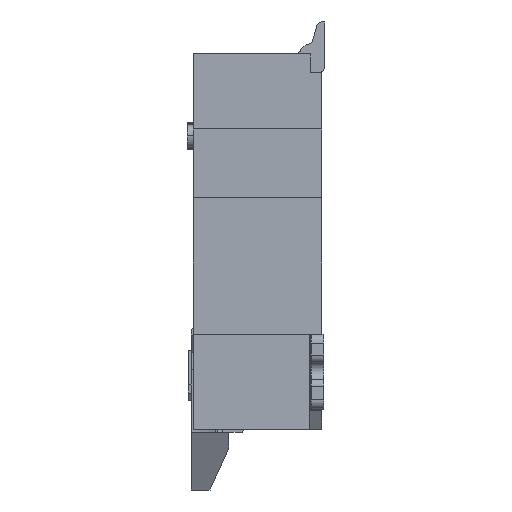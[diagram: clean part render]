
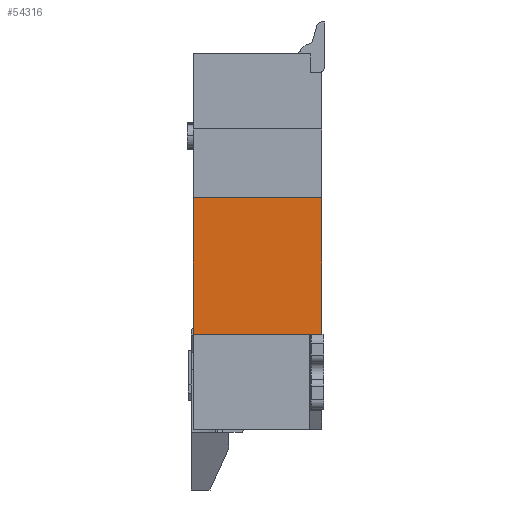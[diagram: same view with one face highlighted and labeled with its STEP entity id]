
A CAD part, left-side view. The second image highlights one B-rep face of the part: STEP entity #54316.
In plain terms, the highlighted planar face has unit normal (-1, 0, 0).
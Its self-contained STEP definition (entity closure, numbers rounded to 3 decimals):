
#245 = DIRECTION ( 'NONE',  ( 0., 1., 0. ) ) ;
#2942 = CARTESIAN_POINT ( 'NONE',  ( -5.75, 2.05, -2.3 ) ) ;
#3941 = AXIS2_PLACEMENT_3D ( 'NONE', #27118, #11577, #245 ) ;
#8524 = EDGE_CURVE ( 'NONE', #47468, #16015, #13603, .T. ) ;
#10553 = PLANE ( 'NONE',  #3941 ) ;
#11032 = LINE ( 'NONE', #58946, #63972 ) ;
#11315 = VECTOR ( 'NONE', #58042, 1000. ) ;
#11577 = DIRECTION ( 'NONE',  ( 1., 0., 0. ) ) ;
#13603 = LINE ( 'NONE', #2942, #49046 ) ;
#16015 = VERTEX_POINT ( 'NONE', #16035 ) ;
#16035 = CARTESIAN_POINT ( 'NONE',  ( -5.75, 2.05, -4.48 ) ) ;
#18188 = CARTESIAN_POINT ( 'NONE',  ( -5.75, 0., -4.48 ) ) ;
#18317 = VERTEX_POINT ( 'NONE', #36915 ) ;
#23950 = DIRECTION ( 'NONE',  ( 0., 0., -1. ) ) ;
#27118 = CARTESIAN_POINT ( 'NONE',  ( -5.75, 1.025, -3.39 ) ) ;
#27200 = ORIENTED_EDGE ( 'NONE', *, *, #62000, .T. ) ;
#28468 = ORIENTED_EDGE ( 'NONE', *, *, #8524, .T. ) ;
#31975 = CARTESIAN_POINT ( 'NONE',  ( -5.75, 2.05, -2.3 ) ) ;
#36915 = CARTESIAN_POINT ( 'NONE',  ( -5.75, 0., -4.48 ) ) ;
#37092 = FACE_OUTER_BOUND ( 'NONE', #49545, .T. ) ;
#39131 = EDGE_CURVE ( 'NONE', #47468, #62692, #11032, .T. ) ;
#41445 = EDGE_CURVE ( 'NONE', #18317, #62692, #44364, .T. ) ;
#42862 = CARTESIAN_POINT ( 'NONE',  ( -5.75, 2.05, -4.48 ) ) ;
#43196 = LINE ( 'NONE', #42862, #11315 ) ;
#44364 = LINE ( 'NONE', #18188, #64013 ) ;
#47468 = VERTEX_POINT ( 'NONE', #31975 ) ;
#48078 = ORIENTED_EDGE ( 'NONE', *, *, #41445, .T. ) ;
#49046 = VECTOR ( 'NONE', #23950, 1000. ) ;
#49545 = EDGE_LOOP ( 'NONE', ( #58879, #28468, #27200, #48078 ) ) ;
#53773 = DIRECTION ( 'NONE',  ( 0., -1., 0. ) ) ;
#54316 = ADVANCED_FACE ( 'NONE', ( #37092 ), #10553, .F. ) ;
#56848 = CARTESIAN_POINT ( 'NONE',  ( -5.75, 0., -2.3 ) ) ;
#58042 = DIRECTION ( 'NONE',  ( 0., -1., 0. ) ) ;
#58879 = ORIENTED_EDGE ( 'NONE', *, *, #39131, .F. ) ;
#58946 = CARTESIAN_POINT ( 'NONE',  ( -5.75, 2.05, -2.3 ) ) ;
#60230 = DIRECTION ( 'NONE',  ( 0., 0., 1. ) ) ;
#62000 = EDGE_CURVE ( 'NONE', #16015, #18317, #43196, .T. ) ;
#62692 = VERTEX_POINT ( 'NONE', #56848 ) ;
#63972 = VECTOR ( 'NONE', #53773, 1000. ) ;
#64013 = VECTOR ( 'NONE', #60230, 1000. ) ;
